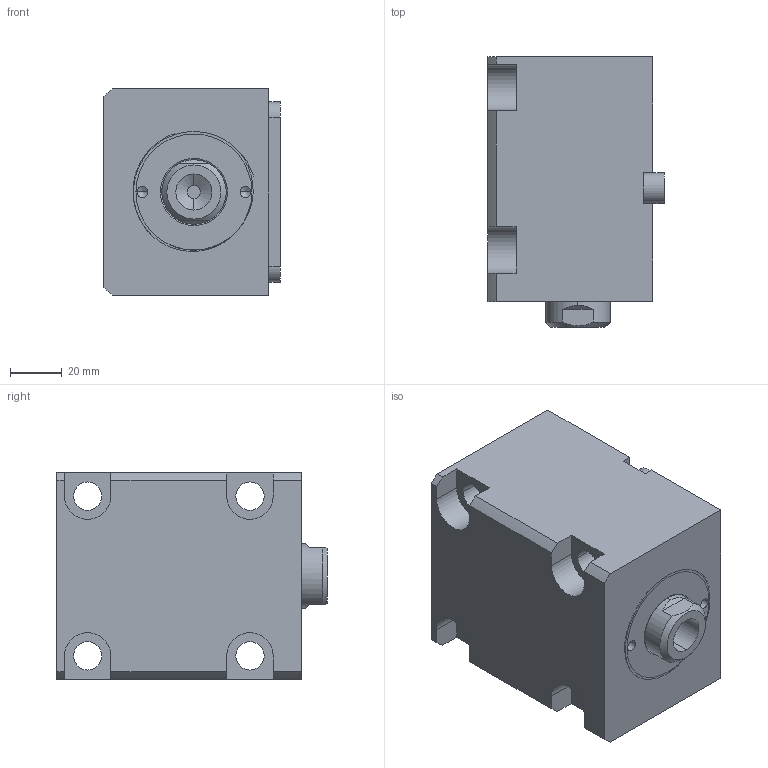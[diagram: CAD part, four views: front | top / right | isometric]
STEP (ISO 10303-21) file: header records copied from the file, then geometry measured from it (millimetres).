
FILE_DESCRIPTION (( 'STEP AP214' ), '1' );
FILE_NAME ('chtb-lam40x40n_asm.STEP', '2018-05-30T01:43:35', ( 'Windows' ), ( 'Microsoft' ), 'SwSTEP 2.0', 'SolidWorks 2015', '' );
FILE_SCHEMA (( 'AUTOMOTIVE_DESIGN' ));
Length unit declared in the file: millimetre
Products named in the file (5): CHTB-SD40X40NHSG; CHTB-SD40QG; CHTB-LAM40X40NBT; CHTB-LA40PJ; chtb-lam40x40n_asm
Assembly tree (4 placements, depth 2):
  chtb-lam40x40n_asm
    CHTB-LA40PJ
    CHTB-LAM40X40NBT
    CHTB-SD40QG
    CHTB-SD40X40NHSG
Bounding box: 68.5 x 105 x 80 mm (x, y, z)
Volume: 420044.1 mm3; surface area: 83842.5 mm2
Topology: 4 solids, 4 shells, 154 faces, 418 edges, 278 vertices
Faces by surface type: cylinder 73, plane 46, bspline 14, torus 12, cone 9
Entity records: 10092 total; most frequent: CARTESIAN_POINT 6074, ORIENTED_EDGE 824, DIRECTION 755, EDGE_CURVE 412, AXIS2_PLACEMENT_3D 300, VERTEX_POINT 278, EDGE_LOOP 180, VECTOR 155
